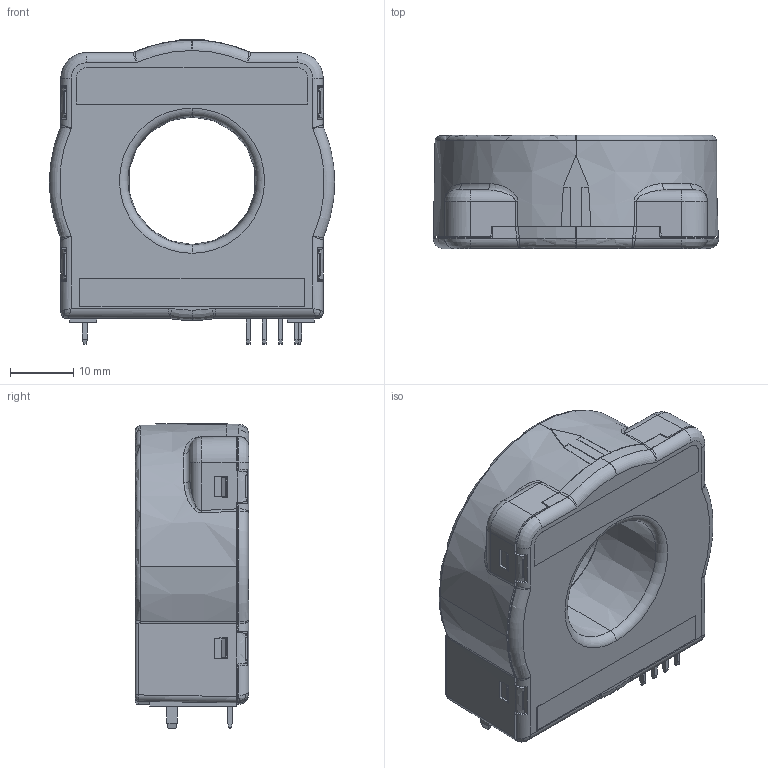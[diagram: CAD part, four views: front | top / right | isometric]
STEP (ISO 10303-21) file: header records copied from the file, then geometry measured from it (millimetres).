
FILE_DESCRIPTION(('CoCreate Modeling STEP Export'),'2;1');
FILE_NAME('CTSR 0.6-P blackbox.stp','2013-05-15T13:30:28',(''),(''),'CoCreate Modeling STEP processor for AP214 (Solid Model)','CoCreate Modeling 17.00A 17-Jun-2010 (C) Parametric Technology GmbH','');
FILE_SCHEMA(('AUTOMOTIVE_DESIGN { 1 0 10303 214 1 1 1 1 }'));
Length unit declared in the file: millimetre
Products named in the file (2): CTSR_0.6-P_blackbox
Assembly tree (1 placements, depth 2):
  CTSR_0.6-P_blackbox
    CTSR_0.6-P_blackbox
Bounding box: 45 x 17.9 x 48.06 mm (x, y, z)
Volume: 24942.6 mm3; surface area: 7230.9 mm2
Topology: 1 solids, 1 shells, 523 faces, 1424 edges, 910 vertices
Faces by surface type: plane 303, cylinder 109, bspline 51, cone 30, torus 26, extrusion 4
Entity records: 19413 total; most frequent: CARTESIAN_POINT 6481, ORIENTED_EDGE 2830, DIRECTION 2207, EDGE_CURVE 1415, VECTOR 937, LINE 933, VERTEX_POINT 910, AXIS2_PLACEMENT_3D 635
